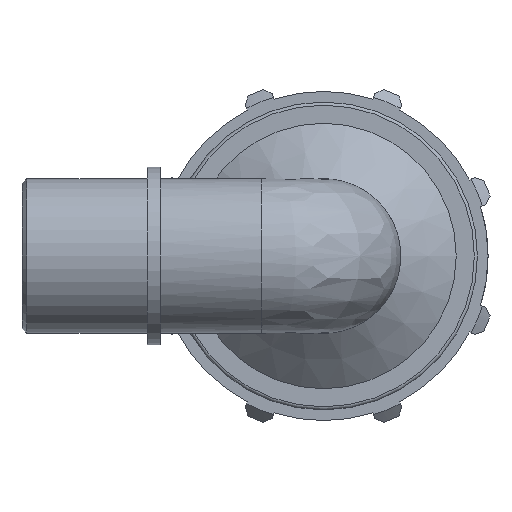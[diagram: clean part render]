
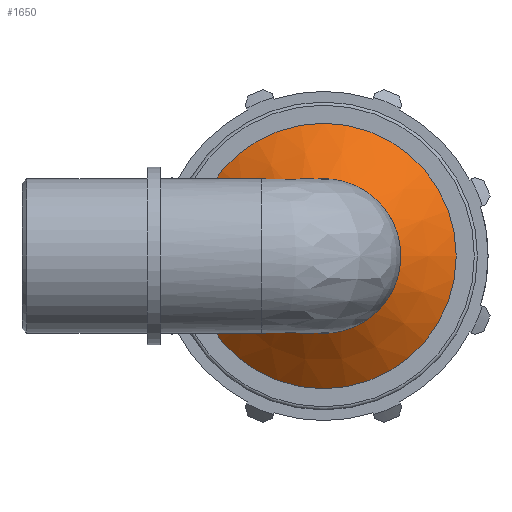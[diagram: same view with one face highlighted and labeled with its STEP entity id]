
A CAD part, left-side view. The second image highlights one B-rep face of the part: STEP entity #1650.
In plain terms, the highlighted conical face has half-angle 50 degrees and reference radius 14.24 mm.
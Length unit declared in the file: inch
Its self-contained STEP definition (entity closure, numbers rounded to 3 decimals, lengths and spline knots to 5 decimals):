
#96=CONICAL_SURFACE('',#1766,0.56063,0.873);
#112=LINE('',#2500,#223);
#223=VECTOR('',#1976,0.56063);
#333=B_SPLINE_CURVE_WITH_KNOTS('',3,(#2448,#2449,#2450,#2451,#2452,#2453,
#2454,#2455),.UNSPECIFIED.,.F.,.F.,(4,2,2,4),(3.99614,4.14136,
4.32282,4.50428),.UNSPECIFIED.);
#334=B_SPLINE_CURVE_WITH_KNOTS('',3,(#2459,#2460,#2461,#2462,#2463,#2464,
#2465,#2466),.UNSPECIFIED.,.F.,.F.,(4,2,2,4),(4.50428,4.68574,
4.8672,5.01242),.UNSPECIFIED.);
#343=FACE_OUTER_BOUND('',#429,.T.);
#429=EDGE_LOOP('',(#1059,#1060,#1061,#1062,#1063,#1064,#1065,#1066));
#522=CIRCLE('',#1753,0.4125);
#524=CIRCLE('',#1757,0.4125);
#531=CIRCLE('',#1767,0.70875);
#532=CIRCLE('',#1768,0.70875);
#622=VERTEX_POINT('',#2428);
#623=VERTEX_POINT('',#2429);
#626=VERTEX_POINT('',#2435);
#630=VERTEX_POINT('',#2447);
#632=VERTEX_POINT('',#2496);
#633=VERTEX_POINT('',#2497);
#792=EDGE_CURVE('',#622,#623,#522,.T.);
#796=EDGE_CURVE('',#623,#626,#524,.T.);
#801=EDGE_CURVE('',#622,#630,#333,.T.);
#804=EDGE_CURVE('',#630,#626,#334,.T.);
#806=EDGE_CURVE('',#632,#633,#531,.T.);
#807=EDGE_CURVE('',#633,#632,#532,.T.);
#808=EDGE_CURVE('',#633,#623,#112,.T.);
#1059=ORIENTED_EDGE('',*,*,#806,.F.);
#1060=ORIENTED_EDGE('',*,*,#807,.F.);
#1061=ORIENTED_EDGE('',*,*,#808,.T.);
#1062=ORIENTED_EDGE('',*,*,#796,.T.);
#1063=ORIENTED_EDGE('',*,*,#804,.F.);
#1064=ORIENTED_EDGE('',*,*,#801,.F.);
#1065=ORIENTED_EDGE('',*,*,#792,.T.);
#1066=ORIENTED_EDGE('',*,*,#808,.F.);
#1650=ADVANCED_FACE('',(#343),#96,.T.);
#1753=AXIS2_PLACEMENT_3D('',#2430,#1943,#1944);
#1757=AXIS2_PLACEMENT_3D('',#2437,#1951,#1952);
#1766=AXIS2_PLACEMENT_3D('',#2495,#1970,#1971);
#1767=AXIS2_PLACEMENT_3D('',#2498,#1972,#1973);
#1768=AXIS2_PLACEMENT_3D('',#2499,#1974,#1975);
#1943=DIRECTION('center_axis',(1.,0.,0.));
#1944=DIRECTION('ref_axis',(0.,0.,-1.));
#1951=DIRECTION('center_axis',(1.,0.,0.));
#1952=DIRECTION('ref_axis',(0.,0.,-1.));
#1970=DIRECTION('center_axis',(1.,0.,0.));
#1971=DIRECTION('ref_axis',(0.,1.,0.));
#1972=DIRECTION('center_axis',(1.,0.,0.));
#1973=DIRECTION('ref_axis',(0.,0.,-1.));
#1974=DIRECTION('center_axis',(1.,0.,0.));
#1975=DIRECTION('ref_axis',(0.,0.,-1.));
#1976=DIRECTION('',(-0.643,0.766,0.));
#2428=CARTESIAN_POINT('',(0.37222,0.37222,0.17779));
#2429=CARTESIAN_POINT('',(0.37222,-0.4125,0.));
#2430=CARTESIAN_POINT('Origin',(0.37222,0.,
0.));
#2435=CARTESIAN_POINT('',(0.37222,0.37222,-0.17779));
#2437=CARTESIAN_POINT('Origin',(0.37222,0.,
0.));
#2447=CARTESIAN_POINT('',(0.4125,0.46051,0.));
#2448=CARTESIAN_POINT('Ctrl Pts',(0.37222,0.37222,0.17779));
#2449=CARTESIAN_POINT('Ctrl Pts',(0.37847,0.38674,0.16469));
#2450=CARTESIAN_POINT('Ctrl Pts',(0.38436,0.39992,0.15054));
#2451=CARTESIAN_POINT('Ctrl Pts',(0.39579,0.42511,0.11779));
#2452=CARTESIAN_POINT('Ctrl Pts',(0.40188,0.43813,0.09601));
#2453=CARTESIAN_POINT('Ctrl Pts',(0.41027,0.45588,0.04905));
#2454=CARTESIAN_POINT('Ctrl Pts',(0.4125,0.46051,0.02381));
#2455=CARTESIAN_POINT('Ctrl Pts',(0.4125,0.46051,0.));
#2459=CARTESIAN_POINT('Ctrl Pts',(0.4125,0.46051,0.));
#2460=CARTESIAN_POINT('Ctrl Pts',(0.4125,0.46051,-0.02381));
#2461=CARTESIAN_POINT('Ctrl Pts',(0.41027,0.45588,-0.04905));
#2462=CARTESIAN_POINT('Ctrl Pts',(0.40188,0.43813,-0.09601));
#2463=CARTESIAN_POINT('Ctrl Pts',(0.39579,0.42511,-0.11779));
#2464=CARTESIAN_POINT('Ctrl Pts',(0.38436,0.39992,-0.15054));
#2465=CARTESIAN_POINT('Ctrl Pts',(0.37847,0.38674,-0.16469));
#2466=CARTESIAN_POINT('Ctrl Pts',(0.37222,0.37222,-0.17779));
#2495=CARTESIAN_POINT('Origin',(0.49651,0.,
0.));
#2496=CARTESIAN_POINT('',(0.6208,0.70875,0.));
#2497=CARTESIAN_POINT('',(0.6208,-0.70875,0.));
#2498=CARTESIAN_POINT('Origin',(0.6208,0.,
0.));
#2499=CARTESIAN_POINT('Origin',(0.6208,0.,
0.));
#2500=CARTESIAN_POINT('',(0.49651,-0.56062,0.));
